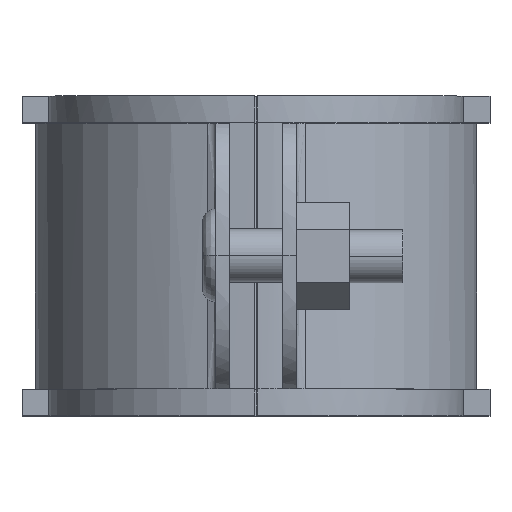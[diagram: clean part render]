
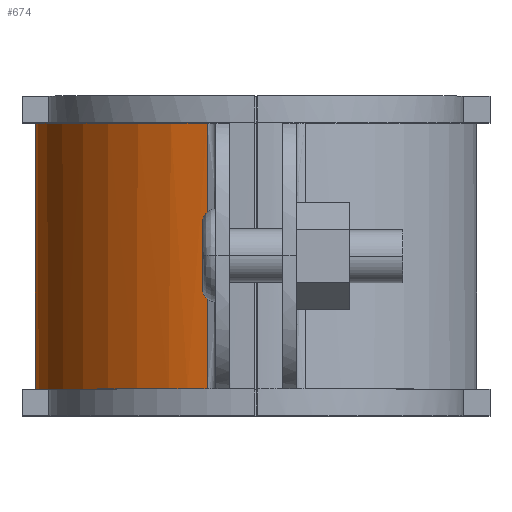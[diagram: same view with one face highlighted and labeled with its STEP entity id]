
A CAD part, top view. The second image highlights one B-rep face of the part: STEP entity #674.
In plain terms, the highlighted free-form (B-spline) face has degree [3, 1] with [4, 2] control points.
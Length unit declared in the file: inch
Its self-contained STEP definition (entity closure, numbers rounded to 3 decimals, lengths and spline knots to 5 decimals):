
#414=EDGE_CURVE('',#979,#1093,#1094,.T.);
#648=EDGE_CURVE('',#1170,#979,#1450,.T.);
#674=ADVANCED_FACE('',(#1480),#1481,.T.);
#736=EDGE_CURVE('',#1093,#1345,#1557,.T.);
#790=EDGE_CURVE('',#1170,#1345,#1629,.T.);
#979=VERTEX_POINT('',#1861);
#1093=VERTEX_POINT('',#2050);
#1094=LINE('',#2051,#2052);
#1170=VERTEX_POINT('',#2225);
#1345=VERTEX_POINT('',#2607);
#1450=B_SPLINE_CURVE_WITH_KNOTS('',3,(#2837,#2838,#2839,#2840),.UNSPECIFIED.,.F.,.F.,(4,4),(-1.0,-0.0),.UNSPECIFIED.);
#1480=FACE_OUTER_BOUND('',#2904,.T.);
#1481=B_SPLINE_SURFACE_WITH_KNOTS('',3,1,((#2905,#2906),(#2907,#2908),(#2909,#2910),(#2911,#2912)),.UNSPECIFIED.,.F.,.F.,.F.,(4,4),(2,2),(-1.0,-0.0),(0.0,1.25),.UNSPECIFIED.);
#1557=B_SPLINE_CURVE_WITH_KNOTS('',3,(#3066,#3067,#3068,#3069),.UNSPECIFIED.,.F.,.F.,(4,4),(0.0,1.0),.UNSPECIFIED.);
#1629=LINE('',#3195,#3196);
#1861=CARTESIAN_POINT('',(0.0,1.24627,1.71092));
#2050=CARTESIAN_POINT('',(0.0,0.,1.71092));
#2051=CARTESIAN_POINT('',(0.0,1.25,1.71092));
#2052=VECTOR('',#3782,1.0);
#2225=CARTESIAN_POINT('',(0.80569,1.24627,2.72196));
#2607=CARTESIAN_POINT('',(0.80569,0.,2.72196));
#2837=CARTESIAN_POINT('',(0.80569,1.24627,2.72196));
#2838=CARTESIAN_POINT('',(0.3442,1.24627,2.61732));
#2839=CARTESIAN_POINT('',(0.0,1.24627,2.20439));
#2840=CARTESIAN_POINT('',(0.0,1.24627,1.71092));
#2904=EDGE_LOOP('',(#4403,#4404,#4405,#4406));
#2905=CARTESIAN_POINT('',(0.80569,1.25,2.72196));
#2906=CARTESIAN_POINT('',(0.80569,0.,2.72196));
#2907=CARTESIAN_POINT('',(0.3442,1.25,2.61732));
#2908=CARTESIAN_POINT('',(0.3442,0.,2.61732));
#2909=CARTESIAN_POINT('',(0.0,1.25,2.20439));
#2910=CARTESIAN_POINT('',(0.0,0.,2.20439));
#2911=CARTESIAN_POINT('',(0.0,1.25,1.71092));
#2912=CARTESIAN_POINT('',(0.0,0.,1.71092));
#3066=CARTESIAN_POINT('',(0.0,0.,1.71092));
#3067=CARTESIAN_POINT('',(0.0,0.,2.20439));
#3068=CARTESIAN_POINT('',(0.3442,0.,2.61732));
#3069=CARTESIAN_POINT('',(0.80569,0.,2.72196));
#3195=CARTESIAN_POINT('',(0.80569,1.25,2.72196));
#3196=VECTOR('',#4624,1.0);
#3782=DIRECTION('',(0.0,-1.0,0.0));
#4403=ORIENTED_EDGE('',*,*,#648,.T.);
#4404=ORIENTED_EDGE('',*,*,#414,.T.);
#4405=ORIENTED_EDGE('',*,*,#736,.T.);
#4406=ORIENTED_EDGE('',*,*,#790,.F.);
#4624=DIRECTION('',(0.0,-1.0,0.0));
